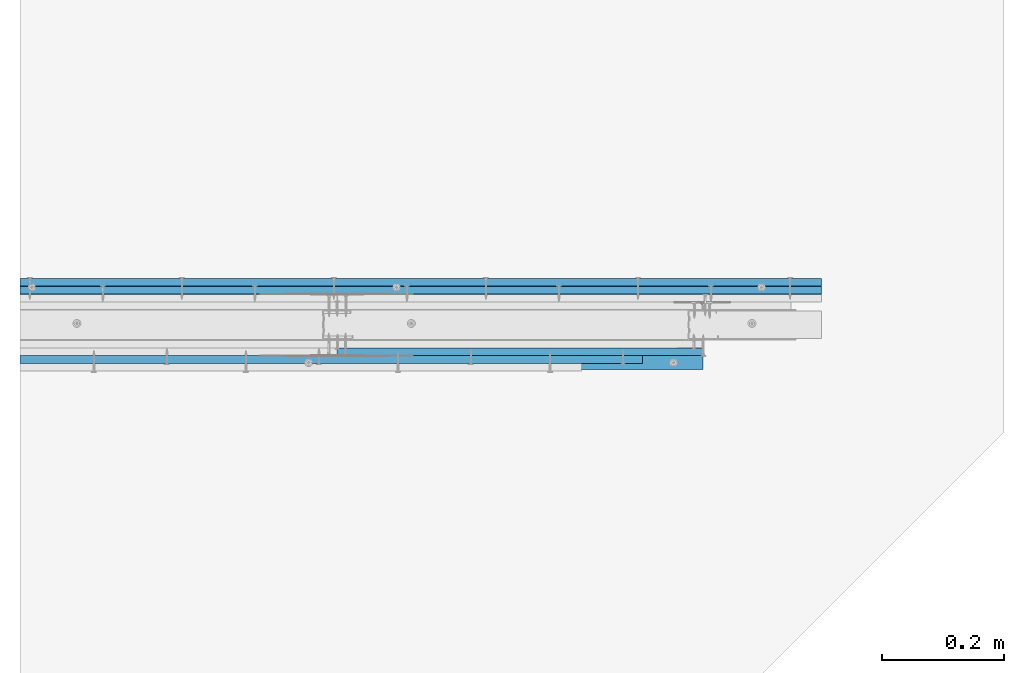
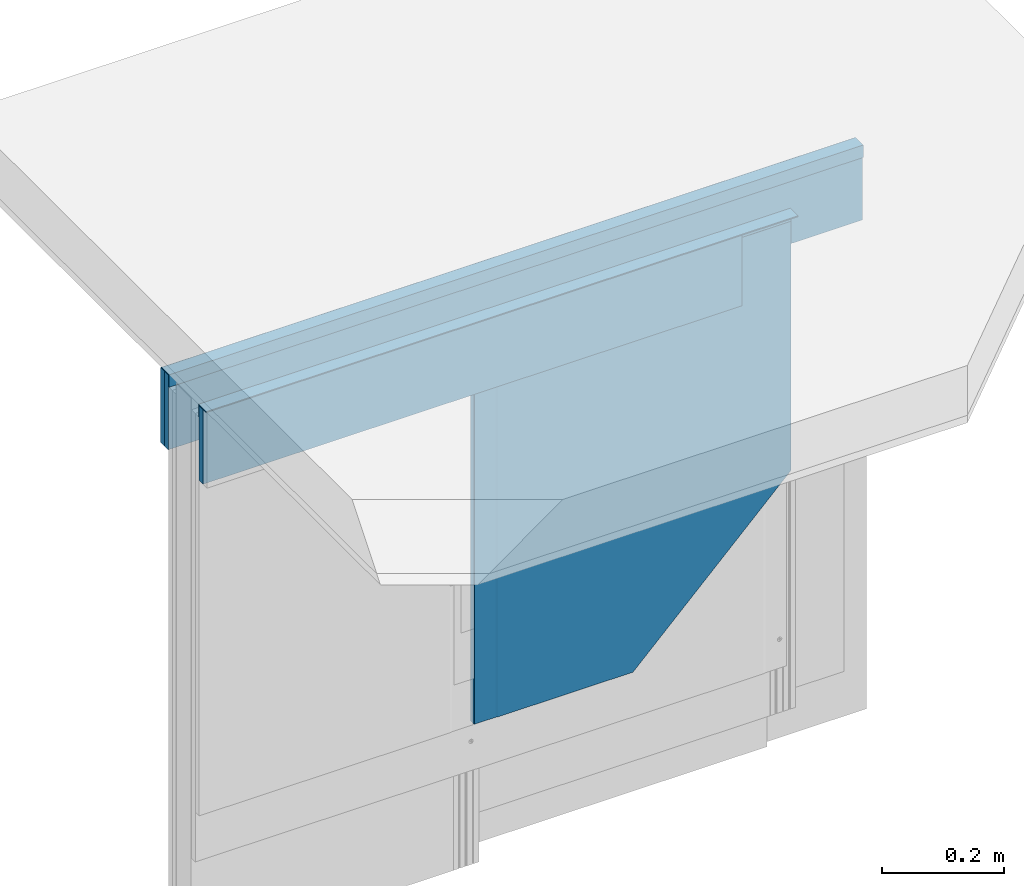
# One storey, part 2 of 60: 6 walls.
"""IFC2X3 building model written with IfcOpenShell, lengths in millimetres."""

from ifc_helpers import new_model, entity, si_unit, converted_unit, direction, frame, origin, origin_with_axes, place, context, project, spatial, faceted_brep, element, save


model = new_model("IFC2X3")

# Units and contexts
model_context = context("Model", 3, precision=1e-05, world=origin(), true_north=direction((0.0, 1.0, 0.0)))
ifc_project = project(units=[si_unit("LENGTHUNIT", "METRE", prefix="MILLI"), si_unit("AREAUNIT", "SQUARE_METRE"), si_unit("VOLUMEUNIT", "CUBIC_METRE"), converted_unit("PLANEANGLEUNIT", "DEGREE", entity("IfcPlaneAngleMeasure", 0.01745), si_unit("PLANEANGLEUNIT", "RADIAN"), dimensions=[0, 0, 0, 0, 0, 0, 0]), si_unit("SOLIDANGLEUNIT", "STERADIAN"), si_unit("MASSUNIT", "GRAM"), si_unit("TIMEUNIT", "SECOND"), si_unit("THERMODYNAMICTEMPERATUREUNIT", "DEGREE_CELSIUS"), si_unit("LUMINOUSINTENSITYUNIT", "LUMEN")], contexts=[model_context])

# Site, building, storey
site_placement = place(None, origin_with_axes())
site = spatial("IfcSite", under=ifc_project, at=site_placement, Name="Default Site", CompositionType="ELEMENT")
building_placement = place(site_placement, origin_with_axes())
building = spatial("IfcBuilding", under=site, at=building_placement, Name="Default Building", CompositionType="ELEMENT")
storey_placement = place(building_placement, origin_with_axes())
storey = spatial("IfcBuildingStorey", under=building, at=storey_placement, Name="Default Building Storey", CompositionType="ELEMENT", Elevation=0.0)

# Walls
wall_1_placement = place(storey_placement, frame((2647.242430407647, 1958.680077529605, 316.4228799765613), z_axis=(0.0, 0.0, -1.0), x_axis=(1.0, 0.0, 0.0)))
element("IfcWall", 1, at=wall_1_placement, inside=storey, Name="Płyta gipsowo-kartonowa RIGIPS PRO (4PRO™)", context=model_context, shape_type="Brep", body=[
    faceted_brep([(601.187218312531, 12.49999999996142, -550.0000000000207), (301.1872183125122, 12.49999999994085, -250.0000000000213), (301.1872183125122, -3.97051280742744e-11, -250.0000000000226), (601.1872183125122, -5.919673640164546e-11, -550.000000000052), (601.1872183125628, 12.49999999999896, -1050.001581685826), (44.99999999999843, 12.50000000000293, -1050.001581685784), (44.99999999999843, 12.50000000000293, -249.9999999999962), (601.187218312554, -2.526689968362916e-12, -1050.001581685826), (285.9232783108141, -4.475850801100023e-11, -250.0000000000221), (40.99999999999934, 11.50000000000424, -249.9999999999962), (0.9999999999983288, 11.5000000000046, -249.9999999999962), (0.7411809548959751, 11.46592582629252, -249.9999999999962), (0.4999999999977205, 11.3660254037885, -249.9999999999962), (0.29289321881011, 11.20710678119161, -249.9999999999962), (0.1339745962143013, 11.00000000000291, -249.9999999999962), (0.03407417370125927, 10.7588190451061, -249.9999999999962), (-3.97051280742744e-12, 10.50000000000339, -249.9999999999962), (0.0, 0.0, -249.9999999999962), (40.99999999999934, 11.50000000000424, -1050.001581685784), (0.9999999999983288, 11.5000000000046, -1050.001581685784), (0.7411809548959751, 11.46592582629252, -1050.001581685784), (0.4999999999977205, 11.3660254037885, -1050.001581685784), (0.29289321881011, 11.20710678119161, -1050.001581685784), (0.1339745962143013, 11.00000000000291, -1050.001581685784), (0.03407417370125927, 10.7588190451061, -1050.001581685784), (-3.97051280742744e-12, 10.50000000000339, -1050.001581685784), (0.0, 0.0, -1050.001581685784)], [[[0, 1, 2, 3]], [[0, 4, 5, 6, 1]], [[3, 7, 4, 0]], [[8, 2, 1, 6, 9, 10, 11, 12, 13, 14, 15, 16, 17]], [[2, 8, 3]], [[9, 6, 5, 18]], [[10, 9, 18, 19]], [[11, 10, 19, 20]], [[12, 11, 20, 21]], [[13, 12, 21, 22]], [[14, 13, 22, 23]], [[15, 14, 23, 24]], [[16, 15, 24, 25]], [[17, 16, 25, 26]], [[26, 7, 3, 8, 17]], [[5, 4, 7, 26, 25, 24, 23, 22, 21, 20, 19, 18]]]),
])
wall_2_placement = place(storey_placement, frame((2125.025133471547, 1923.180077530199, 1366.424461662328), z_axis=(0.0, 0.0, 1.0), x_axis=(1.0, 0.0, 0.0)))
element("IfcWall", 2, at=wall_2_placement, inside=storey, Name="Kątownik", context=model_context, shape_type="Brep", body=[
    faceted_brep([(0.0, 25.00000000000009, 0.0), (0.0, 25.00000000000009, 24.99999999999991), (1123.404515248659, 24.99999999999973, 24.99999999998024), (1123.404515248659, 24.99999999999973, -1.967208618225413e-11), (0.0, 0.0, 24.99999999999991), (1123.404515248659, -3.609557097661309e-13, 24.99999999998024), (-3.609557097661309e-13, 0.0, 22.99999999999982), (1123.404515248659, -3.609557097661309e-13, 22.99999999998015), (-3.609557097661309e-13, 23.00000000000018, 22.99999999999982), (1123.404515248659, 22.99999999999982, 22.99999999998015), (-1.082867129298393e-12, 23.00000000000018, 0.0), (1123.404515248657, 22.99999999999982, -1.967208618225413e-11)], [[[0, 1, 2, 3]], [[1, 4, 5, 2]], [[4, 6, 7, 5]], [[6, 8, 9, 7]], [[8, 10, 11, 9]], [[10, 0, 3, 11]], [[11, 3, 2, 5, 7, 9]], [[0, 10, 8, 6, 4, 1]]]),
])
wall_3_placement = place(storey_placement, frame((1847.247404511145, 1933.680077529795, 1384.621217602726), z_axis=(-1.0, 6.918094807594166e-13, 6.985490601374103e-41), x_axis=(-5.273559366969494e-16, 6.762126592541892e-13, -1.0)))
element("IfcWall", 3, at=wall_3_placement, inside=storey, Name="Płyta gipsowo-kartonowa RIGIPS PRO (4PRO™)", context=model_context, shape_type="Brep", body=[
    faceted_brep([(-4.80324405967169, 2.779358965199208e-11, -277.7777289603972), (-4.80324405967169, -12.50000000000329, -277.7777289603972), (-4.8032440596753, -12.50000000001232, -1301.182244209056), (-4.8032440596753, 1.876969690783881e-11, -1301.182244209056), (145.1967559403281, 9.023892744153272e-11, -277.7777289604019), (145.1967559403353, -12.49999999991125, -277.7777289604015), (145.1967559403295, 9.312657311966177e-11, -1301.182244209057), (145.1967559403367, -12.49999999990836, -1301.182244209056)], [[[0, 1, 2, 3]], [[0, 4, 5, 1]], [[5, 4, 6, 7]], [[2, 1, 5, 7]], [[3, 6, 4, 0]], [[2, 7, 6, 3]]]),
])
wall_4_placement = place(storey_placement, frame((1728.540881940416, 2073.140922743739, 1384.621217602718), z_axis=(-1.0, -6.918094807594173e-13, 6.103619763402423e-41), x_axis=(-5.273559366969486e-16, -6.762126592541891e-13, -1.0)))
element("IfcWall", 4, at=wall_4_placement, inside=storey, Name="Płyta gipsowo-kartonowa RIGIPS PRO (4PRO™)", context=model_context, shape_type="Brep", body=[
    faceted_brep([(-4.80324405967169, -2.743263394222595e-11, -396.4842515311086), (-4.80324405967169, 12.50000000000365, -396.484251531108), (-4.8032440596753, 12.5000000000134, -1714.499736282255), (-4.8032440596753, -1.768682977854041e-11, -1714.499736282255), (145.1967559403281, -8.987797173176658e-11, -396.4842515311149), (145.1967559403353, 12.49999999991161, -396.4842515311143), (145.1967559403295, -9.204370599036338e-11, -1714.499736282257), (145.1967559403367, 12.49999999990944, -1714.499736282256)], [[[0, 1, 2, 3]], [[0, 4, 5, 1]], [[5, 4, 6, 7]], [[2, 1, 5, 7]], [[3, 6, 4, 0]], [[2, 7, 6, 3]]]),
])
wall_5_placement = place(storey_placement, frame((1767.282576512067, 2060.140922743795, 1384.621217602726), z_axis=(-1.0, -6.918094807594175e-13, 5.770079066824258e-41), x_axis=(-5.273559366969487e-16, -6.762126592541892e-13, -1.0)))
element("IfcWall", 5, at=wall_5_placement, inside=storey, Name="Płyta gipsowo-kartonowa RIGIPS PRO (4PRO™)", context=model_context, shape_type="Brep", body=[
    faceted_brep([(-4.80324405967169, -2.779358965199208e-11, -357.7425569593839), (-4.80324405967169, 12.50000000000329, -357.7425569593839), (-4.8032440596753, 12.50000000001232, -1675.758041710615), (-4.8032440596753, -1.876969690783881e-11, -1675.758041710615), (145.1967559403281, -9.023892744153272e-11, -357.7425569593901), (145.1967559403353, 12.49999999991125, -357.7425569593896), (145.1967559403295, -9.312657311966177e-11, -1675.758041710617), (145.1967559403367, 12.49999999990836, -1675.758041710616)], [[[0, 1, 2, 3]], [[0, 4, 5, 1]], [[5, 4, 6, 7]], [[2, 1, 5, 7]], [[3, 6, 4, 0]], [[2, 7, 6, 3]]]),
])
wall_6_placement = place(storey_placement, frame((2125.025133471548, 2070.140922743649, 1366.424461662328), z_axis=(0.0, 0.0, 1.0), x_axis=(1.0, 0.0, 0.0)))
element("IfcWall", 6, at=wall_6_placement, inside=storey, Name="Kątownik", context=model_context, shape_type="Brep", body=[
    faceted_brep([(0.0, -25.00000000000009, 0.0), (0.0, -25.00000000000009, 24.99999999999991), (1318.015484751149, -24.99999999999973, 24.99999999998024), (1318.015484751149, -24.99999999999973, -1.967208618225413e-11), (0.0, 0.0, 24.99999999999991), (1318.015484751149, 3.609557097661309e-13, 24.99999999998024), (-4.234852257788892e-13, 0.0, 22.99999999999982), (1318.015484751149, 3.609557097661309e-13, 22.99999999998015), (-4.234852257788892e-13, -23.00000000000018, 22.99999999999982), (1318.015484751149, -22.99999999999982, 22.99999999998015), (-1.270455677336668e-12, -23.00000000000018, 0.0), (1318.015484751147, -22.99999999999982, -1.967208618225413e-11)], [[[0, 1, 2, 3]], [[1, 4, 5, 2]], [[4, 6, 7, 5]], [[6, 8, 9, 7]], [[8, 10, 11, 9]], [[10, 0, 3, 11]], [[11, 3, 2, 5, 7, 9]], [[0, 10, 8, 6, 4, 1]]]),
])

save(model, "model.ifc")
